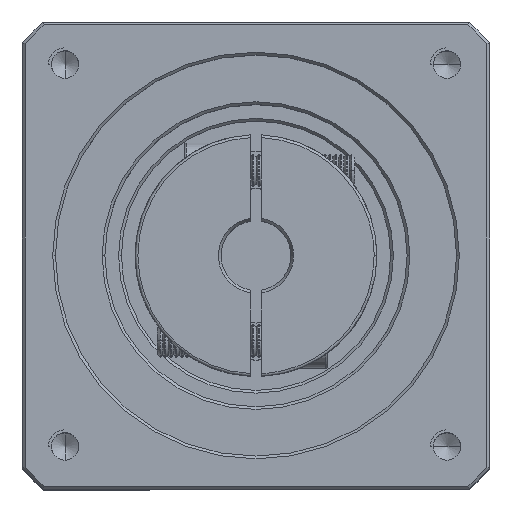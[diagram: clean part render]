
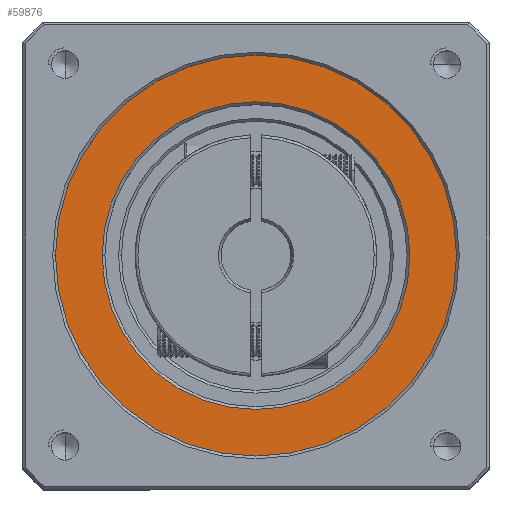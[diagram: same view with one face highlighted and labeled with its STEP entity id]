
A CAD part, top view. The second image highlights one B-rep face of the part: STEP entity #59876.
In plain terms, the highlighted planar face has unit normal (0, 0, 1).
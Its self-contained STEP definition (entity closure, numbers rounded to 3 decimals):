
#6002 = PLANE ( 'NONE',  #30121 ) ;
#16276 = EDGE_CURVE ( 'NONE', #46822, #26324, #41681, .T. ) ;
#17002 = VERTEX_POINT ( 'NONE', #101950 ) ;
#22679 = AXIS2_PLACEMENT_3D ( 'NONE', #106803, #46078, #76020 ) ;
#26324 = VERTEX_POINT ( 'NONE', #51697 ) ;
#29961 = DIRECTION ( 'NONE',  ( 0., 0., -1. ) ) ;
#30121 = AXIS2_PLACEMENT_3D ( 'NONE', #36395, #46406, #106683 ) ;
#30417 = EDGE_LOOP ( 'NONE', ( #44428, #99505 ) ) ;
#31469 = CIRCLE ( 'NONE', #22679, 28. ) ;
#32970 = FACE_OUTER_BOUND ( 'NONE', #30417, .T. ) ;
#36395 = CARTESIAN_POINT ( 'NONE',  ( -34.658, 1.512, 180. ) ) ;
#39752 = CIRCLE ( 'NONE', #50737, 36.5 ) ;
#41681 = CIRCLE ( 'NONE', #87625, 36.5 ) ;
#43903 = EDGE_CURVE ( 'NONE', #17002, #101564, #31469, .T. ) ;
#44428 = ORIENTED_EDGE ( 'NONE', *, *, #113128, .T. ) ;
#46078 = DIRECTION ( 'NONE',  ( 0., 0., -1. ) ) ;
#46406 = DIRECTION ( 'NONE',  ( 0., 0., 1. ) ) ;
#46822 = VERTEX_POINT ( 'NONE', #73227 ) ;
#47824 = DIRECTION ( 'NONE',  ( 1., 0., 0. ) ) ;
#50540 = DIRECTION ( 'NONE',  ( 0., 0., 1. ) ) ;
#50737 = AXIS2_PLACEMENT_3D ( 'NONE', #71390, #50540, #120983 ) ;
#51697 = CARTESIAN_POINT ( 'NONE',  ( 1.842, 1.512, 180. ) ) ;
#53126 = FACE_BOUND ( 'NONE', #64264, .T. ) ;
#55777 = ORIENTED_EDGE ( 'NONE', *, *, #123494, .T. ) ;
#59876 = ADVANCED_FACE ( 'NONE', ( #32970, #53126 ), #6002, .T. ) ;
#61137 = CARTESIAN_POINT ( 'NONE',  ( -6.658, 1.512, 180. ) ) ;
#64264 = EDGE_LOOP ( 'NONE', ( #55777, #76889 ) ) ;
#70747 = CIRCLE ( 'NONE', #92190, 28. ) ;
#71390 = CARTESIAN_POINT ( 'NONE',  ( -34.658, 1.512, 180. ) ) ;
#73227 = CARTESIAN_POINT ( 'NONE',  ( -71.158, 1.512, 180. ) ) ;
#76020 = DIRECTION ( 'NONE',  ( 1., 0., 0. ) ) ;
#76889 = ORIENTED_EDGE ( 'NONE', *, *, #43903, .T. ) ;
#78217 = CARTESIAN_POINT ( 'NONE',  ( -34.658, 1.512, 180. ) ) ;
#79006 = CARTESIAN_POINT ( 'NONE',  ( -34.658, 1.512, 180. ) ) ;
#79435 = DIRECTION ( 'NONE',  ( 1., 0., 0. ) ) ;
#87625 = AXIS2_PLACEMENT_3D ( 'NONE', #78217, #127827, #47824 ) ;
#92190 = AXIS2_PLACEMENT_3D ( 'NONE', #79006, #29961, #79435 ) ;
#99505 = ORIENTED_EDGE ( 'NONE', *, *, #16276, .T. ) ;
#101564 = VERTEX_POINT ( 'NONE', #61137 ) ;
#101950 = CARTESIAN_POINT ( 'NONE',  ( -62.658, 1.512, 180. ) ) ;
#106683 = DIRECTION ( 'NONE',  ( 1., 0., 0. ) ) ;
#106803 = CARTESIAN_POINT ( 'NONE',  ( -34.658, 1.512, 180. ) ) ;
#113128 = EDGE_CURVE ( 'NONE', #26324, #46822, #39752, .T. ) ;
#120983 = DIRECTION ( 'NONE',  ( 1., 0., 0. ) ) ;
#123494 = EDGE_CURVE ( 'NONE', #101564, #17002, #70747, .T. ) ;
#127827 = DIRECTION ( 'NONE',  ( 0., 0., 1. ) ) ;
